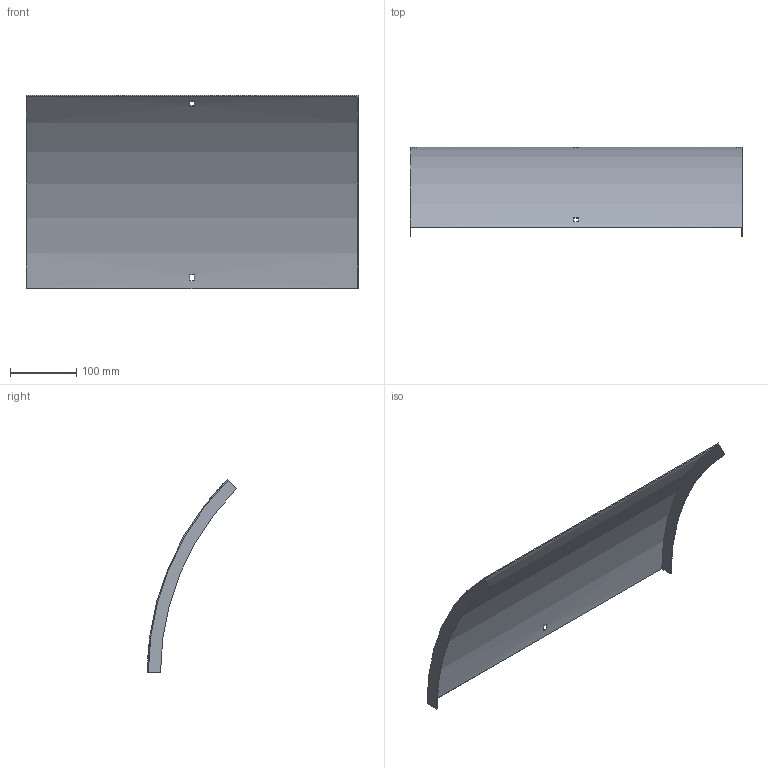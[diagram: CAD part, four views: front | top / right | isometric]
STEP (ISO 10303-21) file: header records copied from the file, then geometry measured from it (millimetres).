
FILE_DESCRIPTION (( 'STEP AP214' ), '1' );
FILE_NAME ('B2_34N3J500.step', '2025-02-21T10:37:07', ( '' ), ( '' ), 'SwSTEP 2.0', 'SolidWorks 2023', '' );
FILE_SCHEMA (( 'AUTOMOTIVE_DESIGN' ));
Length unit declared in the file: millimetre
Products named in the file (1): B2_34N3J500
Bounding box: 503 x 135.4 x 292.74 mm (x, y, z)
Volume: 262286.8 mm3; surface area: 352358.9 mm2
Topology: 1 solids, 1 shells, 18 faces, 48 edges, 32 vertices
Faces by surface type: plane 14, cylinder 4
Entity records: 599 total; most frequent: DIRECTION 102, CARTESIAN_POINT 99, ORIENTED_EDGE 96, EDGE_CURVE 48, AXIS2_PLACEMENT_3D 35, LINE 32, VECTOR 32, VERTEX_POINT 32
